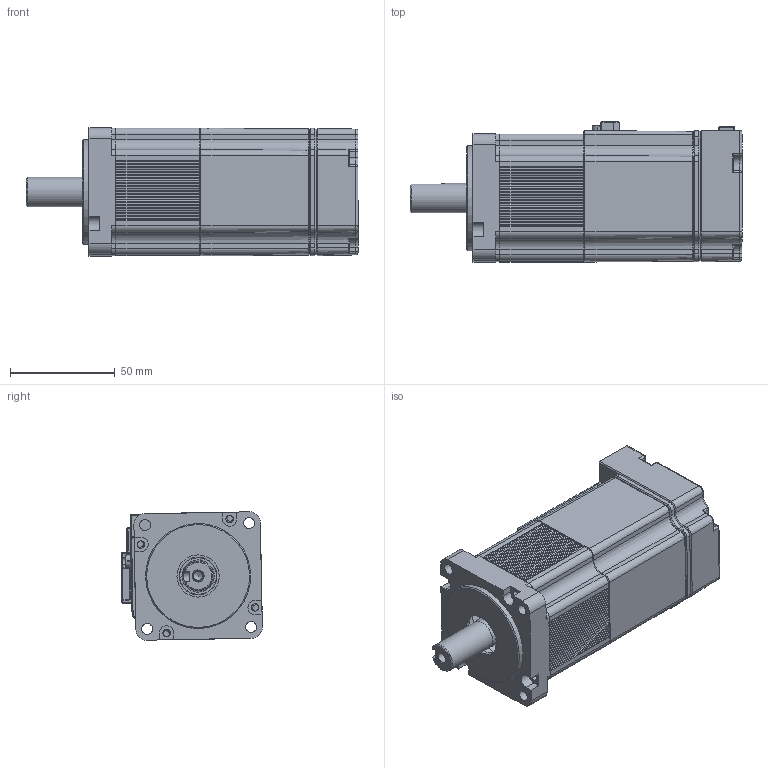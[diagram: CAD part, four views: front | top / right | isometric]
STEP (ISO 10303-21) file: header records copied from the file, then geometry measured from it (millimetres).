
FILE_DESCRIPTION (( 'STEP AP203' ), '1' );
FILE_NAME ('60-400W_BR(諼睡 歎睡辨)_rev01.STEP', '2024-09-12T08:14:59', ( '' ), ( '' ), 'SwSTEP 2.0', 'SolidWorks 2023', '' );
FILE_SCHEMA (( 'CONFIG_CONTROL_DESIGN' ));
Length unit declared in the file: millimetre
Products named in the file (10): 60-200W 야스카와 베어링 변경 플랜지; POWER RECEPTACLE; ENCODER Receptacle; □60-200W ST ASS''Y; □60 ENCODER COVER_다이캐스팅 가공도; □60-200,400W BRACKET(BRAKE)_다이캐스팅 가공도; 60-400W_BR(외부 송부용)_rev01; □60-200W BRAKE FRAME; 50160686(□60 ADAPTOR); □60-200W BRAKE SHAFT(세메스)
Assembly tree (9 placements, depth 2):
  60-400W_BR(외부 송부용)_rev01
    □60-200W ST ASS''Y
    ENCODER Receptacle
    POWER RECEPTACLE
    □60 ENCODER COVER_다이캐스팅 가공도
    □60-200W BRAKE FRAME
    □60-200,400W BRACKET(BRAKE)_다이캐스팅 가공도
    □60-200W BRAKE SHAFT(세메스)
    60-200W 야스카와 베어링 변경 플랜지
    50160686(□60 ADAPTOR)
Bounding box: 158.1 x 66.95 x 61.14 mm (x, y, z)
Volume: 169932.9 mm3; surface area: 99775 mm2
Topology: 9 solids, 15 shells, 2230 faces, 5806 edges, 3677 vertices
Faces by surface type: plane 1162, cylinder 655, bspline 193, cone 143, torus 53, sphere 24
Full cylindrical faces by diameter (mm): 1.93 x1, 2 x9, 2.6 x2, 3 x13, 3.2 x1, 3.5 x8, 4 x1, 4.25 x1, 4.3 x4, 5 x1, 14 x1, 14.8 x1, 15 x1, 17 x1, 18 x1, 20.103 x1, 26 x1, 36.5 x1, 37 x1, 40.103 x1, 48.6 x1, 49 x1, 49.2 x1, 49.9 x1, 50 x1, 50.2 x1, 51.8 x1, 56.6 x2, 56.703 x1
Entity records: 72657 total; most frequent: CARTESIAN_POINT 17990, ORIENTED_EDGE 11364, DIRECTION 10859, EDGE_CURVE 5682, AXIS2_PLACEMENT_3D 3664, VERTEX_POINT 3662, VECTOR 3531, LINE 3531
